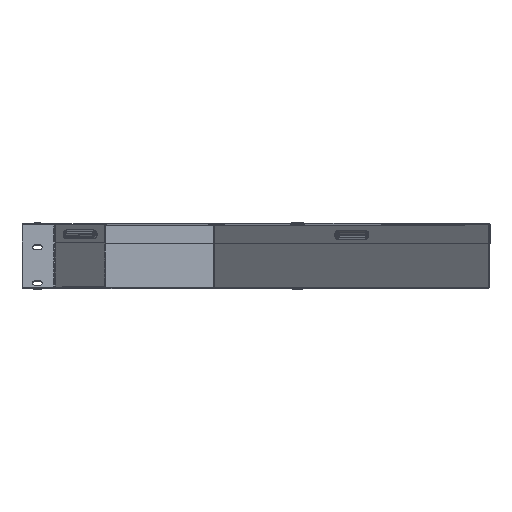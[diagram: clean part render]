
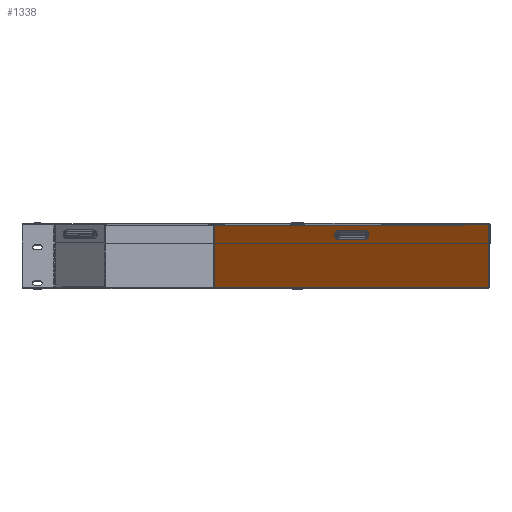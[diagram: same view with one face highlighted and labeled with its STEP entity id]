
A CAD part, top view. The second image highlights one B-rep face of the part: STEP entity #1338.
In plain terms, the highlighted planar face has unit normal (-0.707, 0, 0.707).
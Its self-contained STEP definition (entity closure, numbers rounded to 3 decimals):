
#342 = AXIS2_PLACEMENT_3D ( 'NONE', #387, #7318, #750 ) ;
#387 = CARTESIAN_POINT ( 'NONE',  ( 128.221, 83.1, -170.648 ) ) ;
#716 = VECTOR ( 'NONE', #16007, 1000. ) ;
#750 = DIRECTION ( 'NONE',  ( 0., 1., 0. ) ) ;
#952 = DIRECTION ( 'NONE',  ( 0., 1., 0. ) ) ;
#1137 = VERTEX_POINT ( 'NONE', #2644 ) ;
#1228 = CARTESIAN_POINT ( 'NONE',  ( 364.123, 98.2, 65.255 ) ) ;
#1338 = ADVANCED_FACE ( 'NONE', ( #12219, #17570 ), #16468, .T. ) ;
#1375 = DIRECTION ( 'NONE',  ( 0.707, 0., 0.707 ) ) ;
#1555 = EDGE_CURVE ( 'NONE', #3385, #21718, #15431, .T. ) ;
#1582 = ORIENTED_EDGE ( 'NONE', *, *, #4629, .F. ) ;
#1639 = EDGE_CURVE ( 'NONE', #10257, #1137, #18097, .T. ) ;
#1672 = ORIENTED_EDGE ( 'NONE', *, *, #21792, .F. ) ;
#1740 = CARTESIAN_POINT ( 'NONE',  ( 128.221, 76.183, -170.648 ) ) ;
#1904 = VECTOR ( 'NONE', #952, 1000. ) ;
#2025 = DIRECTION ( 'NONE',  ( 0.707, 0., 0.707 ) ) ;
#2498 = VECTOR ( 'NONE', #1375, 1000. ) ;
#2506 = LINE ( 'NONE', #13242, #20838 ) ;
#2507 = VERTEX_POINT ( 'NONE', #7949 ) ;
#2644 = CARTESIAN_POINT ( 'NONE',  ( 128.221, 90.017, -170.648 ) ) ;
#3124 = LINE ( 'NONE', #14368, #716 ) ;
#3385 = VERTEX_POINT ( 'NONE', #16613 ) ;
#4596 = CARTESIAN_POINT ( 'NONE',  ( -65.255, 0., -364.123 ) ) ;
#4629 = EDGE_CURVE ( 'NONE', #2507, #3385, #3124, .T. ) ;
#4700 = DIRECTION ( 'NONE',  ( -0.707, 0., 0.707 ) ) ;
#5554 = ORIENTED_EDGE ( 'NONE', *, *, #1555, .F. ) ;
#5897 = VERTEX_POINT ( 'NONE', #1228 ) ;
#6267 = CARTESIAN_POINT ( 'NONE',  ( 364.434, 98.2, 65.566 ) ) ;
#6360 = DIRECTION ( 'NONE',  ( 0.707, 0., 0.707 ) ) ;
#6584 = CARTESIAN_POINT ( 'NONE',  ( 170.648, 90.017, -128.221 ) ) ;
#6599 = LINE ( 'NONE', #15429, #19934 ) ;
#6857 = EDGE_CURVE ( 'NONE', #11455, #10257, #7756, .T. ) ;
#6886 = VERTEX_POINT ( 'NONE', #1740 ) ;
#7169 = EDGE_CURVE ( 'NONE', #2507, #5897, #2506, .T. ) ;
#7209 = EDGE_CURVE ( 'NONE', #1137, #6886, #12290, .T. ) ;
#7318 = DIRECTION ( 'NONE',  ( -0.707, 0., 0.707 ) ) ;
#7756 = CIRCLE ( 'NONE', #10240, 6.917 ) ;
#7949 = CARTESIAN_POINT ( 'NONE',  ( 364.123, 1., 65.255 ) ) ;
#8267 = DIRECTION ( 'NONE',  ( -0.707, 0., 0.707 ) ) ;
#9168 = ORIENTED_EDGE ( 'NONE', *, *, #19512, .F. ) ;
#9582 = CARTESIAN_POINT ( 'NONE',  ( -65.255, 98.2, -364.123 ) ) ;
#10240 = AXIS2_PLACEMENT_3D ( 'NONE', #20000, #8267, #18301 ) ;
#10257 = VERTEX_POINT ( 'NONE', #6584 ) ;
#10324 = VECTOR ( 'NONE', #21727, 1000. ) ;
#11455 = VERTEX_POINT ( 'NONE', #14721 ) ;
#12214 = ORIENTED_EDGE ( 'NONE', *, *, #6857, .F. ) ;
#12219 = FACE_BOUND ( 'NONE', #15417, .T. ) ;
#12290 = CIRCLE ( 'NONE', #342, 6.917 ) ;
#13099 = EDGE_LOOP ( 'NONE', ( #1582, #18304, #1672, #5554 ) ) ;
#13242 = CARTESIAN_POINT ( 'NONE',  ( 364.123, 0., 65.255 ) ) ;
#13690 = DIRECTION ( 'NONE',  ( 0., 1., 0. ) ) ;
#14368 = CARTESIAN_POINT ( 'NONE',  ( 364.434, 1., 65.566 ) ) ;
#14721 = CARTESIAN_POINT ( 'NONE',  ( 170.648, 76.183, -128.221 ) ) ;
#14847 = CARTESIAN_POINT ( 'NONE',  ( 149.434, 0., -149.434 ) ) ;
#15417 = EDGE_LOOP ( 'NONE', ( #19714, #16855, #12214, #9168 ) ) ;
#15429 = CARTESIAN_POINT ( 'NONE',  ( 149.434, 76.183, -149.434 ) ) ;
#15431 = LINE ( 'NONE', #4596, #1904 ) ;
#16007 = DIRECTION ( 'NONE',  ( -0.707, 0., -0.707 ) ) ;
#16468 = PLANE ( 'NONE',  #20554 ) ;
#16613 = CARTESIAN_POINT ( 'NONE',  ( -65.255, 1., -364.123 ) ) ;
#16855 = ORIENTED_EDGE ( 'NONE', *, *, #1639, .F. ) ;
#17570 = FACE_OUTER_BOUND ( 'NONE', #13099, .T. ) ;
#18097 = LINE ( 'NONE', #21566, #10324 ) ;
#18301 = DIRECTION ( 'NONE',  ( 0., 1., 0. ) ) ;
#18304 = ORIENTED_EDGE ( 'NONE', *, *, #7169, .T. ) ;
#18947 = LINE ( 'NONE', #6267, #2498 ) ;
#19512 = EDGE_CURVE ( 'NONE', #6886, #11455, #6599, .T. ) ;
#19714 = ORIENTED_EDGE ( 'NONE', *, *, #7209, .F. ) ;
#19934 = VECTOR ( 'NONE', #2025, 1000. ) ;
#20000 = CARTESIAN_POINT ( 'NONE',  ( 170.648, 83.1, -128.221 ) ) ;
#20554 = AXIS2_PLACEMENT_3D ( 'NONE', #14847, #4700, #6360 ) ;
#20838 = VECTOR ( 'NONE', #13690, 1000. ) ;
#21566 = CARTESIAN_POINT ( 'NONE',  ( 149.434, 90.017, -149.434 ) ) ;
#21718 = VERTEX_POINT ( 'NONE', #9582 ) ;
#21727 = DIRECTION ( 'NONE',  ( -0.707, 0., -0.707 ) ) ;
#21792 = EDGE_CURVE ( 'NONE', #21718, #5897, #18947, .T. ) ;
